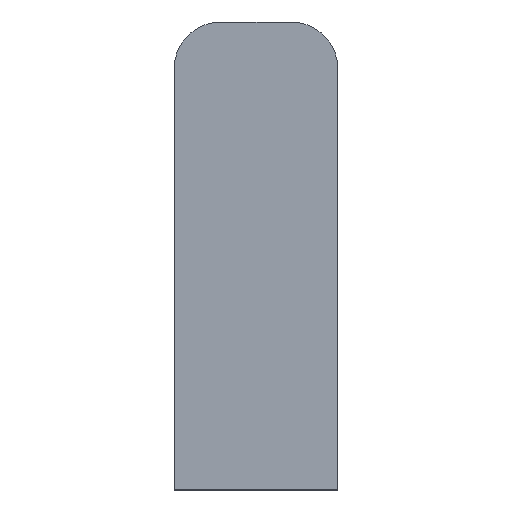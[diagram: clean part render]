
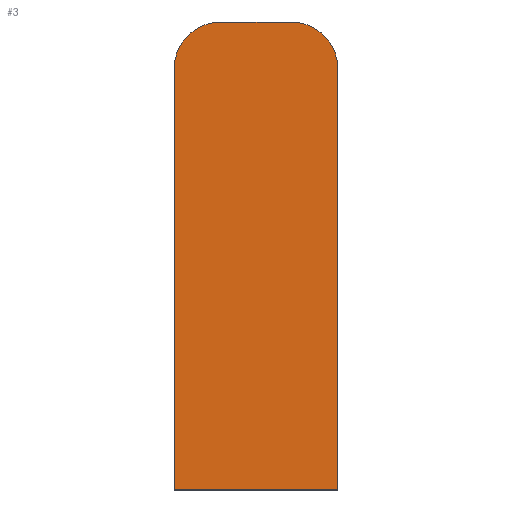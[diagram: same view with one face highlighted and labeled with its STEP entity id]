
A CAD part, front view. The second image highlights one B-rep face of the part: STEP entity #3.
In plain terms, the highlighted planar face has unit normal (0, -1, 0).
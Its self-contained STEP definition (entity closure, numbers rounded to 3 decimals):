
#3 = ADVANCED_FACE ( 'NONE', ( #382 ), #54, .F. ) ;
#34 = VERTEX_POINT ( 'NONE', #103 ) ;
#36 = VERTEX_POINT ( 'NONE', #96 ) ;
#39 = VERTEX_POINT ( 'NONE', #105 ) ;
#40 = VERTEX_POINT ( 'NONE', #106 ) ;
#45 = VERTEX_POINT ( 'NONE', #111 ) ;
#48 = VERTEX_POINT ( 'NONE', #114 ) ;
#53 = CARTESIAN_POINT ( 'NONE',  ( 0., 0., -1.5 ) ) ;
#54 = PLANE ( 'NONE',  #297 ) ;
#56 = DIRECTION ( 'NONE',  ( 0., 1., 0. ) ) ;
#57 = DIRECTION ( 'NONE',  ( -1., 0., 0. ) ) ;
#96 = CARTESIAN_POINT ( 'NONE',  ( -2.25, 0., 13.5 ) ) ;
#103 = CARTESIAN_POINT ( 'NONE',  ( -5.25, 0., 10.5 ) ) ;
#105 = CARTESIAN_POINT ( 'NONE',  ( 5.25, 0., 10.5 ) ) ;
#106 = CARTESIAN_POINT ( 'NONE',  ( -5.25, 0., -16.5 ) ) ;
#111 = CARTESIAN_POINT ( 'NONE',  ( 2.25, 0., 13.5 ) ) ;
#114 = CARTESIAN_POINT ( 'NONE',  ( 5.25, 0., -16.5 ) ) ;
#128 = CARTESIAN_POINT ( 'NONE',  ( -5.25, 0., -16.5 ) ) ;
#129 = DIRECTION ( 'NONE',  ( 0., 0., -1. ) ) ;
#130 = CARTESIAN_POINT ( 'NONE',  ( 5.25, 0., -16.5 ) ) ;
#133 = DIRECTION ( 'NONE',  ( 0., 0., 1. ) ) ;
#136 = CARTESIAN_POINT ( 'NONE',  ( -2.25, 0., 10.5 ) ) ;
#137 = DIRECTION ( 'NONE',  ( 0., -1., 0. ) ) ;
#138 = DIRECTION ( 'NONE',  ( -1., 0., 0. ) ) ;
#179 = CARTESIAN_POINT ( 'NONE',  ( 2.25, 0., 10.5 ) ) ;
#186 = CARTESIAN_POINT ( 'NONE',  ( 5.25, 0., -16.5 ) ) ;
#187 = DIRECTION ( 'NONE',  ( 1., 0., 0. ) ) ;
#189 = DIRECTION ( 'NONE',  ( 0., -1., 0. ) ) ;
#190 = DIRECTION ( 'NONE',  ( -1., 0., 0. ) ) ;
#206 = CARTESIAN_POINT ( 'NONE',  ( 2.25, 0., 13.5 ) ) ;
#207 = DIRECTION ( 'NONE',  ( -1., 0., 0. ) ) ;
#230 = AXIS2_PLACEMENT_3D ( 'NONE', #179, #189, #190 ) ;
#232 = EDGE_CURVE ( 'NONE', #34, #40, #406, .T. ) ;
#235 = EDGE_CURVE ( 'NONE', #48, #39, #408, .T. ) ;
#237 = EDGE_CURVE ( 'NONE', #36, #34, #419, .T. ) ;
#275 = AXIS2_PLACEMENT_3D ( 'NONE', #136, #137, #138 ) ;
#278 = EDGE_CURVE ( 'NONE', #40, #48, #445, .T. ) ;
#282 = EDGE_CURVE ( 'NONE', #39, #45, #452, .T. ) ;
#297 = AXIS2_PLACEMENT_3D ( 'NONE', #53, #56, #57 ) ;
#299 = EDGE_CURVE ( 'NONE', #45, #36, #451, .T. ) ;
#326 = ORIENTED_EDGE ( 'NONE', *, *, #237, .T. ) ;
#327 = ORIENTED_EDGE ( 'NONE', *, *, #299, .T. ) ;
#328 = ORIENTED_EDGE ( 'NONE', *, *, #282, .T. ) ;
#329 = ORIENTED_EDGE ( 'NONE', *, *, #235, .T. ) ;
#347 = ORIENTED_EDGE ( 'NONE', *, *, #278, .T. ) ;
#348 = ORIENTED_EDGE ( 'NONE', *, *, #232, .T. ) ;
#374 = EDGE_LOOP ( 'NONE', ( #329, #328, #327, #326, #348, #347 ) ) ;
#382 = FACE_OUTER_BOUND ( 'NONE', #374, .T. ) ;
#406 = LINE ( 'NONE', #128, #411 ) ;
#408 = LINE ( 'NONE', #130, #415 ) ;
#411 = VECTOR ( 'NONE', #129, 1000. ) ;
#415 = VECTOR ( 'NONE', #133, 1000. ) ;
#419 = CIRCLE ( 'NONE', #275, 3. ) ;
#445 = LINE ( 'NONE', #186, #446 ) ;
#446 = VECTOR ( 'NONE', #187, 1000. ) ;
#451 = LINE ( 'NONE', #206, #457 ) ;
#452 = CIRCLE ( 'NONE', #230, 3. ) ;
#457 = VECTOR ( 'NONE', #207, 1000. ) ;
